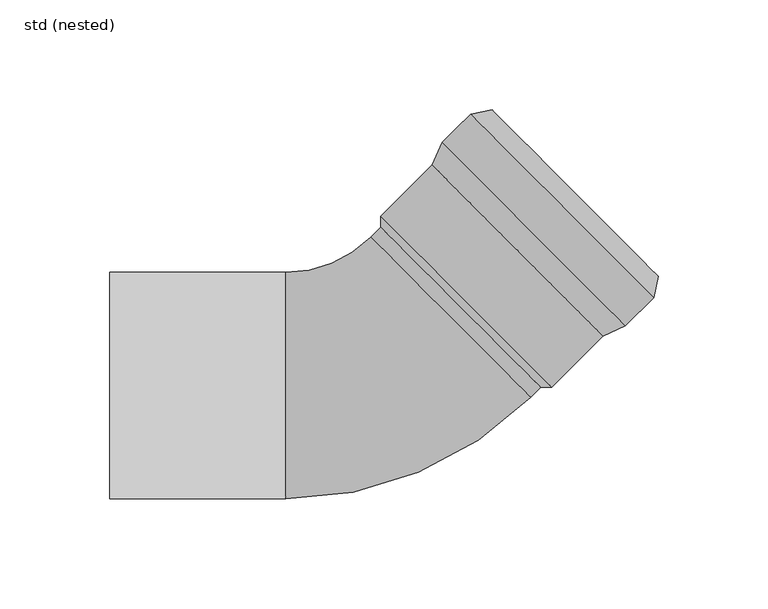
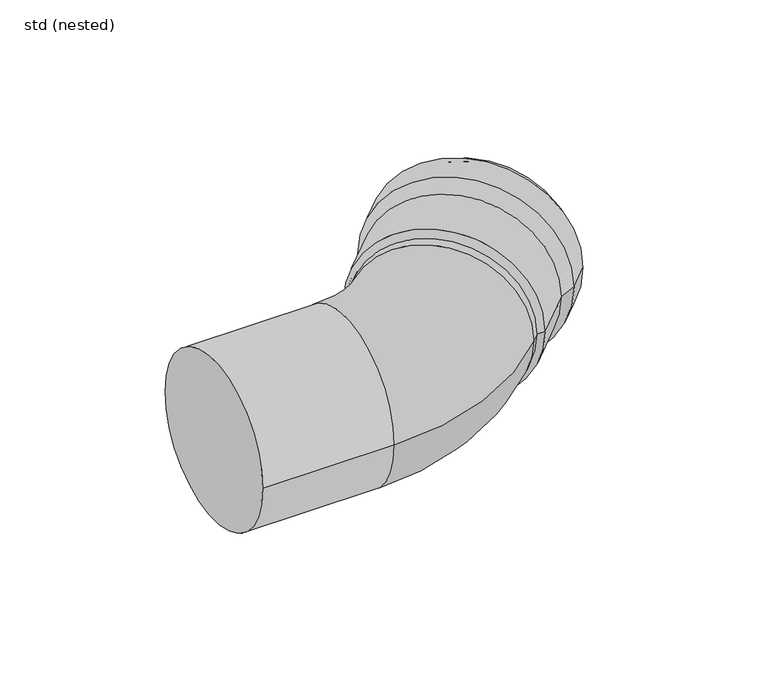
"""IFC4 building model written with IfcOpenShell, lengths in millimetres: pipe fitting geometry, ZZZ_do not use_PIF_ST_UN_GM-X pipe bend_ACO : std (nested)."""

from ifc_helpers import new_model, si_unit, point, frame, origin, place, context, project, spatial, polyline, circle_curve, ellipse_curve, trimmed, source, transform, mapped, element, save
from ifc_brep_helpers import plane_surface, cylinder_surface, revolved_surface, advanced_brep


def std_nested_638a4417(model_context):
    return source(origin(), model_context, "Body", "AdvancedBrep", [
        advanced_brep(
        [(110.6788446, 27.1559083, 0.0), (27.2913037, 110.6455365, 0.0), (40.1685175, 123.5070047, 0.0), (123.5560585, 40.0173765, 0.0), (100.4229865, 22.5659874, 0.0), (22.6888381, 100.3953018, 0.0), (49.9278005, 125.4809338, 0.0), (125.5419266, 49.774237, 0.0), (77.0741922, -0.7542571, 0.0), (-0.6599562, 77.0750573, 0.0), (72.1244456, -0.7512291, 0.0), (-0.6629842, 72.1253108, 0.0), (74.6008329, 1.7221302, 0.0), (1.8134031, 74.59867, 0.0), (99.270049, 24.2411581, 0.0), (24.362597, 99.2403156, 0.0), (0.753392, 75.6599789, 0.0), (75.660844, 0.6608213, 0.0), (109.5259072, 28.831079, 0.0), (28.9650625, 109.4905503, 0.0), (121.7164096, 41.0066755, 0.0), (41.155565, 121.6661468, 0.0), (123.5821091, 50.1731296, 0.0), (50.3242949, 123.5206297, 0.0)],
        [
            (0, 1, circle_curve(frame((68.9850741, 68.9007224, 0.0), z_axis=(0.7075392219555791, 0.7066740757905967, 0.0), x_axis=(-0.7066740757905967, 0.7075392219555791, 0.0)), 59.0)),
            (1, 2),
            (2, 3, circle_curve(frame((81.862288, 81.7621906, 0.0), z_axis=(-0.7075392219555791, -0.7066740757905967, 0.0), x_axis=(-0.7066740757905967, 0.7075392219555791, 0.0)), 59.0)),
            (3, 0),
            (1, 0, circle_curve(frame((68.9850741, 68.9007224, 0.0), z_axis=(0.7075392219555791, 0.7066740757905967, 0.0), x_axis=(-0.7066740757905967, 0.7075392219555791, 0.0)), 59.0)),
            (3, 2, circle_curve(frame((81.862288, 81.7621906, 0.0), z_axis=(-0.7075392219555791, -0.7066740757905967, 0.0), x_axis=(-0.7066740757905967, 0.7075392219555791, 0.0)), 59.0)),
            (4, 5, circle_curve(frame((61.5559123, 61.4806446, 0.0), z_axis=(0.7075392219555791, 0.7066740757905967, 0.0), x_axis=(-0.7066740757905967, 0.7075392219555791, 0.0)), 55.0)),
            (5, 1),
            (0, 4),
            (5, 4, circle_curve(frame((61.5559123, 61.4806446, 0.0), z_axis=(0.7075392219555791, 0.7066740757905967, 0.0), x_axis=(-0.7066740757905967, 0.7075392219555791, 0.0)), 55.0)),
            (2, 6),
            (6, 7, circle_curve(frame((87.7348635, 87.6275854, 0.0), z_axis=(-0.7075392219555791, -0.7066740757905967, 0.0), x_axis=(-0.7066740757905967, 0.7075392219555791, 0.0)), 53.5)),
            (7, 3),
            (7, 6, circle_curve(frame((87.7348635, 87.6275854, 0.0), z_axis=(-0.7075392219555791, -0.7066740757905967, 0.0), x_axis=(-0.7066740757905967, 0.7075392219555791, 0.0)), 53.5)),
            (8, 9, circle_curve(frame((38.207118, 38.1604001, 0.0), z_axis=(0.7075392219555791, 0.7066740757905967, 0.0), x_axis=(-0.7066740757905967, 0.7075392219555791, 0.0)), 55.0)),
            (9, 5),
            (4, 8),
            (9, 8, circle_curve(frame((38.207118, 38.1604001, 0.0), z_axis=(0.7075392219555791, 0.7066740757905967, 0.0), x_axis=(-0.7066740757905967, 0.7075392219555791, 0.0)), 55.0)),
            (10, 11, circle_curve(frame((35.7307307, 35.6870408, 0.0), z_axis=(0.7075392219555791, 0.7066740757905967, 0.0), x_axis=(-0.7066740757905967, 0.7075392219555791, 0.0)), 51.5)),
            (11, 9),
            (8, 10),
            (11, 10, circle_curve(frame((35.7307307, 35.6870408, 0.0), z_axis=(0.7075392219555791, 0.7066740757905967, 0.0), x_axis=(-0.7066740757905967, 0.7075392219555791, 0.0)), 51.5)),
            (12, 13, circle_curve(frame((38.207118, 38.1604001, 0.0), z_axis=(0.7075392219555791, 0.7066740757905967, 0.0), x_axis=(-0.7066740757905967, 0.7075392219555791, 0.0)), 51.5)),
            (13, 11),
            (10, 12),
            (13, 12, circle_curve(frame((38.207118, 38.1604001, 0.0), z_axis=(0.7075392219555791, 0.7066740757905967, 0.0), x_axis=(-0.7066740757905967, 0.7075392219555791, 0.0)), 51.5)),
            (14, 15, circle_curve(frame((61.816323, 61.7407369, 0.0), z_axis=(0.7075392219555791, 0.7066740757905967, 0.0), x_axis=(-0.7066740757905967, 0.7075392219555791, 0.0)), 53.0)),
            (15, 16),
            (16, 17, circle_curve(frame((38.207118, 38.1604001, 0.0), z_axis=(-0.7075392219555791, -0.7066740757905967, 0.0), x_axis=(-0.7066740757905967, 0.7075392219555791, 0.0)), 53.0)),
            (17, 14),
            (15, 14, circle_curve(frame((61.816323, 61.7407369, 0.0), z_axis=(0.7075392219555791, 0.7066740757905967, 0.0), x_axis=(-0.7066740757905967, 0.7075392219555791, 0.0)), 53.0)),
            (17, 16, circle_curve(frame((38.207118, 38.1604001, 0.0), z_axis=(-0.7075392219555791, -0.7066740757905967, 0.0), x_axis=(-0.7066740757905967, 0.7075392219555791, 0.0)), 53.0)),
            (18, 19, circle_curve(frame((69.2454848, 69.1608147, 0.0), z_axis=(0.7075392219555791, 0.7066740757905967, 0.0), x_axis=(-0.7066740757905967, 0.7075392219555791, 0.0)), 57.0)),
            (19, 15),
            (14, 18),
            (19, 18, circle_curve(frame((69.2454848, 69.1608147, 0.0), z_axis=(0.7075392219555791, 0.7066740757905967, 0.0), x_axis=(-0.7066740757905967, 0.7075392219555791, 0.0)), 57.0)),
            (20, 21, circle_curve(frame((81.4359873, 81.3364112, 0.0), z_axis=(0.7075392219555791, 0.7066740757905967, 0.0), x_axis=(-0.7066740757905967, 0.7075392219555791, 0.0)), 57.0)),
            (21, 19),
            (18, 20),
            (21, 20, circle_curve(frame((81.4359873, 81.3364112, 0.0), z_axis=(0.7075392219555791, 0.7066740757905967, 0.0), x_axis=(-0.7066740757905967, 0.7075392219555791, 0.0)), 57.0)),
            (22, 23, circle_curve(frame((86.953202, 86.8468796, 0.0), z_axis=(0.7075392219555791, 0.7066740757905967, 0.0), x_axis=(-0.7066740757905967, 0.7075392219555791, 0.0)), 51.8328156)),
            (23, 21),
            (20, 22),
            (23, 22, circle_curve(frame((86.953202, 86.8468796, 0.0), z_axis=(0.7075392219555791, 0.7066740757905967, 0.0), x_axis=(-0.7066740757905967, 0.7075392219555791, 0.0)), 51.8328156)),
            (6, 23),
            (22, 7),
            (16, 13),
            (12, 17),
        ],
        [
            cylinder_surface(frame((85.3606532, 85.2562781, 0.0), z_axis=(-0.7075392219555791, -0.7066740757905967, 0.0), x_axis=(-0.7066740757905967, 0.7075392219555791, 0.0)), 59.0),
            revolved_surface(polyline([(27.2913037, 110.6455365, 0.0), (22.6888381, 100.3953018, 0.0)]), (85.3606532, 85.2562781, 0.0), (-0.7075392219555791, -0.7066740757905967, 0.0)),
            revolved_surface(polyline([(49.9278005, 125.4809338, 0.0), (40.1685175, 123.5070047, 0.0)]), (85.3606532, 85.2562781, 0.0), (-0.7075392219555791, -0.7066740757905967, 0.0)),
            cylinder_surface(frame((85.3606532, 85.2562781, 0.0), z_axis=(-0.7075392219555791, -0.7066740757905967, 0.0), x_axis=(-0.7066740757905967, 0.7075392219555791, 0.0)), 55.0),
            revolved_surface(polyline([(-0.6599562, 77.0750573, 0.0), (-0.6629842, 72.1253108, 0.0)]), (85.3606532, 85.2562781, 0.0), (-0.7075392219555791, -0.7066740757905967, 0.0)),
            revolved_surface(polyline([(-0.6629841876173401, 72.12531071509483, 0.0), (1.8134031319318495, 74.59867002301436, 0.0)]), (85.3606532, 85.2562781, 0.0), (-0.7075392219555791, -0.7066740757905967, 0.0)),
            revolved_surface(polyline([(0.7533919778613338, 75.65997881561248, 0.0), (24.362597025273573, 99.24031562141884, 0.0)]), (85.3606532, 85.2562781, 0.0), (-0.7075392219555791, -0.7066740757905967, 0.0)),
            revolved_surface(polyline([(24.362597, 99.2403156, 0.0), (28.9650625, 109.4905503, 0.0)]), (85.3606532, 85.2562781, 0.0), (-0.7075392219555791, -0.7066740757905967, 0.0)),
            revolved_surface(polyline([(28.965062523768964, 109.49055027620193, 0.0), (41.155565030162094, 121.6661468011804, 0.0)]), (85.3606532, 85.2562781, 0.0), (-0.7075392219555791, -0.7066740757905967, 0.0)),
            revolved_surface(polyline([(41.155565, 121.6661468, 0.0), (50.3242949, 123.5206297, 0.0)]), (85.3606532, 85.2562781, 0.0), (-0.7075392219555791, -0.7066740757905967, 0.0)),
            revolved_surface(polyline([(50.3242949, 123.5206297, 0.0), (49.9278005, 125.4809338, 0.0)]), (85.3606532, 85.2562781, 0.0), (-0.7075392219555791, -0.7066740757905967, 0.0)),
            plane_surface(frame((38.207118, 38.1604001, 0.0), z_axis=(0.7075392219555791, 0.7066740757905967, 0.0), x_axis=(-0.7066740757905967, 0.7075392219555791, 0.0))),
        ],
        [
            (0, [[1, 2, 3, 4]]),
            (0, [[5, -4, 6, -2]]),
            (1, [[7, 8, -1, 9]]),
            (1, [[10, -9, -5, -8]]),
            (2, [[-3, 11, 12, 13]]),
            (2, [[-6, -13, 14, -11]]),
            (3, [[15, 16, -7, 17]]),
            (3, [[18, -17, -10, -16]]),
            (4, [[19, 20, -15, 21]]),
            (4, [[22, -21, -18, -20]]),
            (5, [[23, 24, -19, 25]]),
            (5, [[26, -25, -22, -24]]),
            (6, [[27, 28, 29, 30]]),
            (6, [[31, -30, 32, -28]]),
            (7, [[33, 34, -27, 35]]),
            (7, [[36, -35, -31, -34]]),
            (8, [[37, 38, -33, 39]]),
            (8, [[40, -39, -36, -38]]),
            (9, [[41, 42, -37, 43]]),
            (9, [[44, -43, -40, -42]]),
            (10, [[-12, 45, -41, 46]]),
            (10, [[-14, -46, -44, -45]]),
            (11, [[-29, 47, -23, 48]]),
            (11, [[-32, -48, -26, -47]]),
        ],
    ),
        advanced_brep(
        [(-5.2619891, 67.5319293, 0.0), (-44.0, 51.5, 0.0), (-44.0, -51.5, 0.0), (67.5254407, -5.3446106, 0.0), (31.1317258, 31.0936593, 51.5), (31.1317258, 31.0936593, -51.5), (-124.0, -51.5, 0.0), (-124.0, 51.5, 0.0), (74.6008329, 1.7221302, 0.0), (1.8134031, 74.59867, 0.0)],
        [
            (0, 1, circle_curve(frame((-44.0, 106.3173652, 0.0), z_axis=(0.0, 0.0, -1.0), x_axis=(0.0, -1.0, 0.0)), 54.8173652)),
            (1, 2, circle_curve(frame((-44.0, 0.0, 0.0), z_axis=(1.0, 0.0, 0.0), x_axis=(0.0, 1.0, 0.0)), 51.5)),
            (2, 3, circle_curve(frame((-44.0, 106.3173652, 0.0), z_axis=(0.0, 0.0, 1.0), x_axis=(0.0, -1.0, 0.0)), 157.8173652)),
            (3, 4, circle_curve(frame((31.1317258, 31.0936593, 0.0), z_axis=(-0.7075392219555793, -0.7066740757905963, 0.0), x_axis=(-0.7066740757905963, 0.7075392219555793, 0.0)), 51.5)),
            (4, 0, circle_curve(frame((31.1317258, 31.0936593, 0.0), z_axis=(-0.7075392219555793, -0.7066740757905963, 0.0), x_axis=(-0.7066740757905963, 0.7075392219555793, 0.0)), 51.5)),
            (0, 5, circle_curve(frame((31.1317258, 31.0936593, 0.0), z_axis=(-0.7075392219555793, -0.7066740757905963, 0.0), x_axis=(-0.7066740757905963, 0.7075392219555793, 0.0)), 51.5)),
            (5, 3, circle_curve(frame((31.1317258, 31.0936593, 0.0), z_axis=(-0.7075392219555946, -0.706674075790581, 0.0), x_axis=(-0.706674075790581, 0.7075392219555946, 0.0)), 51.5)),
            (2, 1, circle_curve(frame((-44.0, 0.0, 0.0), z_axis=(1.0, 0.0, 0.0), x_axis=(0.0, 1.0, 0.0)), 51.5)),
            (6, 7, circle_curve(frame((-124.0, 0.0, 0.0), z_axis=(-1.0, 0.0, 0.0), x_axis=(0.0, 1.0, 0.0)), 51.5)),
            (7, 6, circle_curve(frame((-124.0, 0.0, 0.0), z_axis=(-1.0, 0.0, 0.0), x_axis=(0.0, 1.0, 0.0)), 51.5)),
            (7, 1),
            (2, 6),
            (8, 9, circle_curve(frame((38.207118, 38.1604001, 0.0), z_axis=(0.7075392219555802, 0.7066740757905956, 0.0), x_axis=(-0.7066740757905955, 0.70753922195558, 0.0)), 51.5)),
            (9, 8, circle_curve(frame((38.207118, 38.1604001, 0.0), z_axis=(0.7075392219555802, 0.7066740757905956, 0.0), x_axis=(-0.7066740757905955, 0.70753922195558, 0.0)), 51.5)),
            (9, 0),
            (3, 8),
        ],
        [
            revolved_surface(trimmed(ellipse_curve(frame((-44.0, 0.0, 0.0), z_axis=(-1.0, 0.0, 0.0), x_axis=(0.0, 1.0, 0.0)), 51.5, 51.5), [point((-44.0, -51.5, 0.0))], [point((-44.0, 51.5, 0.0))], True, "CARTESIAN"), (-44.0, 106.3173652, 0.0), (0.0, 0.0, 1.0)),
            revolved_surface(trimmed(ellipse_curve(frame((-44.0, 0.0, 0.0), z_axis=(-1.0, 0.0, 0.0), x_axis=(0.0, 1.0, 0.0)), 51.5, 51.5), [point((-44.0, 51.5, 0.0))], [point((-44.0, -51.5, 0.0))], True, "CARTESIAN"), (-44.0, 106.3173652, 0.0), (0.0, 0.0, 1.0)),
            plane_surface(frame((-124.0, 51.5, 0.0), z_axis=(-1.0, 0.0, 0.0), x_axis=(0.0, 0.0, -1.0))),
            cylinder_surface(frame((-124.0, 0.0, 0.0), z_axis=(1.0, 0.0, 0.0), x_axis=(0.0, 1.0, 0.0)), 51.5),
            plane_surface(frame((38.207118, 38.1604001, 0.0), z_axis=(0.7075392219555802, 0.7066740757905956, 0.0), x_axis=(0.0, 0.0, 1.0))),
            cylinder_surface(frame((31.1317258, 31.0936593, 0.0), z_axis=(-0.70753922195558, -0.7066740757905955, 0.0), x_axis=(-0.7066740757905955, 0.70753922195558, 0.0)), 51.5),
        ],
        [
            (0, [[1, 2, 3, 4, 5]]),
            (1, [[-1, 6, 7, -3, 8]]),
            (2, [[9, 10]]),
            (3, [[-10, 11, -8, 12]]),
            (3, [[-9, -12, -2, -11]]),
            (4, [[13, 14]]),
            (5, [[-14, 15, -5, -4, 16]]),
            (5, [[-13, -16, -7, -6, -15]]),
        ],
    ),
    ])


if __name__ == "__main__":
    model = new_model("IFC4")
    model_context = context("Model", 3, world=origin())
    ifc_project = project(units=[si_unit("LENGTHUNIT", "METRE", prefix="MILLI")], contexts=[model_context])
    site = spatial("IfcSite", under=ifc_project)
    building = spatial("IfcBuilding", under=site)
    placement = place(None, origin())
    std_nested_shape = std_nested_638a4417(model_context)
    element("IfcPipeFitting", 1, ObjectType="ZZZ_do not use_PIF_ST_UN_GM-X pipe bend_ACO : std (nested)", at=placement, inside=building, context=model_context, shape_type="MappedRepresentation", body=[
        mapped(std_nested_shape, transform((0.0, 0.0, 0.0), x_axis=(1.0, 0.0, 0.0), y_axis=(0.0, 1.0, 0.0), z_axis=(0.0, 0.0, 1.0))),
    ])
    save(model, "model.ifc")
